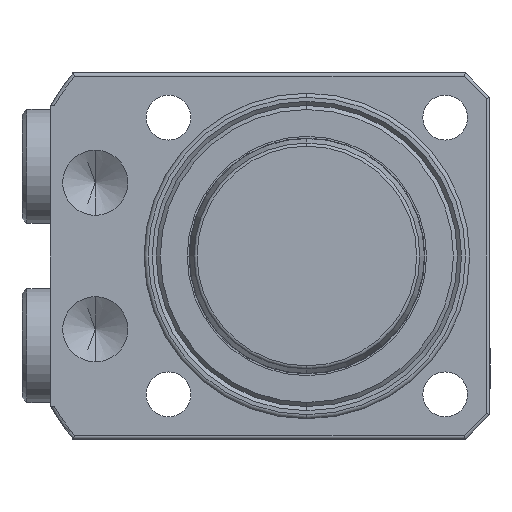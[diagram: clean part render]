
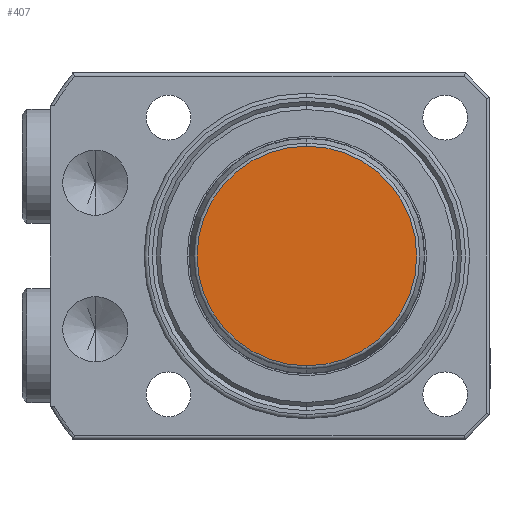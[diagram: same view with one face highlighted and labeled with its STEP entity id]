
A CAD part, front view. The second image highlights one B-rep face of the part: STEP entity #407.
In plain terms, the highlighted planar face has unit normal (0, -1, 0).
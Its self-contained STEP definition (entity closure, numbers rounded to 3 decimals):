
#407 = ADVANCED_FACE ( 'NONE', ( #2946 ), #4531, .F. ) ;
#1154 = CARTESIAN_POINT ( 'NONE',  ( 0., 0., 13.492 ) ) ;
#1251 = CIRCLE ( 'NONE', #5051, 13.492 ) ;
#1289 = CARTESIAN_POINT ( 'NONE',  ( 0., 0., 0. ) ) ;
#1315 = CARTESIAN_POINT ( 'NONE',  ( 0., 0., 0. ) ) ;
#1432 = ORIENTED_EDGE ( 'NONE', *, *, #2913, .T. ) ;
#1489 = EDGE_CURVE ( 'NONE', #3650, #4998, #4218, .T. ) ;
#1561 = EDGE_LOOP ( 'NONE', ( #1432, #6829 ) ) ;
#1851 = DIRECTION ( 'NONE',  ( 0., 0., 1. ) ) ;
#1855 = DIRECTION ( 'NONE',  ( 0., 0., 1. ) ) ;
#1939 = AXIS2_PLACEMENT_3D ( 'NONE', #1289, #5098, #1851 ) ;
#2652 = DIRECTION ( 'NONE',  ( 0., -1., 0. ) ) ;
#2913 = EDGE_CURVE ( 'NONE', #4998, #3650, #1251, .T. ) ;
#2946 = FACE_OUTER_BOUND ( 'NONE', #1561, .T. ) ;
#3334 = AXIS2_PLACEMENT_3D ( 'NONE', #1315, #5099, #1855 ) ;
#3650 = VERTEX_POINT ( 'NONE', #4525 ) ;
#4218 = CIRCLE ( 'NONE', #3334, 13.492 ) ;
#4525 = CARTESIAN_POINT ( 'NONE',  ( 0., 0., -13.492 ) ) ;
#4531 = PLANE ( 'NONE',  #1939 ) ;
#4998 = VERTEX_POINT ( 'NONE', #1154 ) ;
#5051 = AXIS2_PLACEMENT_3D ( 'NONE', #5897, #2652, #6456 ) ;
#5098 = DIRECTION ( 'NONE',  ( 0., 1., 0. ) ) ;
#5099 = DIRECTION ( 'NONE',  ( 0., -1., 0. ) ) ;
#5897 = CARTESIAN_POINT ( 'NONE',  ( 0., 0., 0. ) ) ;
#6456 = DIRECTION ( 'NONE',  ( 0., 0., 1. ) ) ;
#6829 = ORIENTED_EDGE ( 'NONE', *, *, #1489, .T. ) ;
